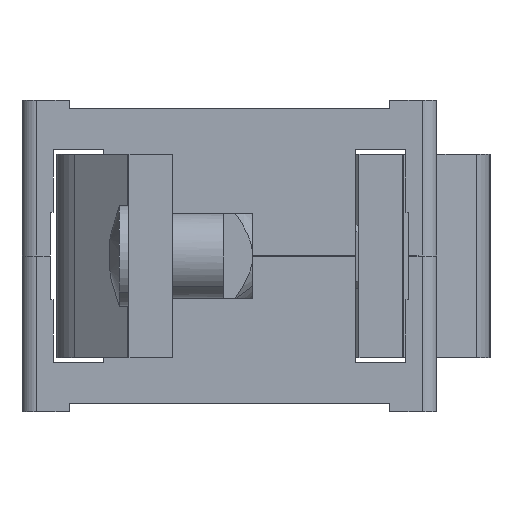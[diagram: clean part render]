
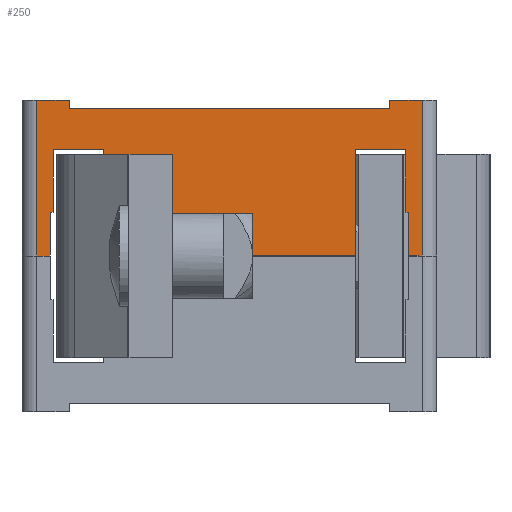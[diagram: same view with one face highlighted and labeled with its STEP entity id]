
A CAD part, left-side view. The second image highlights one B-rep face of the part: STEP entity #250.
In plain terms, the highlighted planar face has unit normal (-1, 0, 0) as drawn and (1, 0, 0) by its records, which use the part's own axes.
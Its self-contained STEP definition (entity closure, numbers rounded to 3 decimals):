
#41 = EDGE_CURVE ( 'NONE', #9026, #9369, #676, .T. ) ;
#42 = VERTEX_POINT ( 'NONE', #672 ) ;
#56 = EDGE_CURVE ( 'NONE', #9228, #57, #706, .T. ) ;
#57 = VERTEX_POINT ( 'NONE', #702 ) ;
#74 = VERTEX_POINT ( 'NONE', #677 ) ;
#76 = EDGE_CURVE ( 'NONE', #74, #9057, #738, .T. ) ;
#101 = EDGE_CURVE ( 'NONE', #42, #9225, #757, .T. ) ;
#217 = EDGE_CURVE ( 'NONE', #218, #219, #956, .T. ) ;
#218 = VERTEX_POINT ( 'NONE', #952 ) ;
#219 = VERTEX_POINT ( 'NONE', #951 ) ;
#248 = VERTEX_POINT ( 'NONE', #968 ) ;
#250 = ADVANCED_FACE ( 'NONE', ( #963 ), #962, .F. ) ;
#251 = EDGE_LOOP ( 'NONE', ( #252, #253, #254, #255, #257, #258, #259, #322, #324, #325, #326, #327, #328, #329, #332, #309, #311, #312, #314, #315 ) ) ;
#252 = ORIENTED_EDGE ( 'NONE', *, *, #9254, .F. ) ;
#253 = ORIENTED_EDGE ( 'NONE', *, *, #9059, .T. ) ;
#254 = ORIENTED_EDGE ( 'NONE', *, *, #76, .F. ) ;
#255 = ORIENTED_EDGE ( 'NONE', *, *, #256, .T. ) ;
#256 = EDGE_CURVE ( 'NONE', #74, #57, #960, .T. ) ;
#257 = ORIENTED_EDGE ( 'NONE', *, *, #56, .F. ) ;
#258 = ORIENTED_EDGE ( 'NONE', *, *, #9227, .F. ) ;
#259 = ORIENTED_EDGE ( 'NONE', *, *, #101, .F. ) ;
#309 = ORIENTED_EDGE ( 'NONE', *, *, #310, .T. ) ;
#310 = EDGE_CURVE ( 'NONE', #248, #219, #1065, .T. ) ;
#311 = ORIENTED_EDGE ( 'NONE', *, *, #217, .F. ) ;
#312 = ORIENTED_EDGE ( 'NONE', *, *, #313, .T. ) ;
#313 = EDGE_CURVE ( 'NONE', #218, #9235, #1061, .T. ) ;
#314 = ORIENTED_EDGE ( 'NONE', *, *, #9241, .F. ) ;
#315 = ORIENTED_EDGE ( 'NONE', *, *, #9170, .F. ) ;
#322 = ORIENTED_EDGE ( 'NONE', *, *, #323, .T. ) ;
#323 = EDGE_CURVE ( 'NONE', #42, #9369, #1111, .T. ) ;
#324 = ORIENTED_EDGE ( 'NONE', *, *, #41, .F. ) ;
#325 = ORIENTED_EDGE ( 'NONE', *, *, #9025, .F. ) ;
#326 = ORIENTED_EDGE ( 'NONE', *, *, #9263, .F. ) ;
#327 = ORIENTED_EDGE ( 'NONE', *, *, #9367, .F. ) ;
#328 = ORIENTED_EDGE ( 'NONE', *, *, #9316, .F. ) ;
#329 = ORIENTED_EDGE ( 'NONE', *, *, #330, .T. ) ;
#330 = EDGE_CURVE ( 'NONE', #9314, #331, #1107, .T. ) ;
#331 = VERTEX_POINT ( 'NONE', #1103 ) ;
#332 = ORIENTED_EDGE ( 'NONE', *, *, #333, .T. ) ;
#333 = EDGE_CURVE ( 'NONE', #331, #248, #1102, .T. ) ;
#672 = CARTESIAN_POINT ( 'NONE',  ( 27., -8.65, 3.4 ) ) ;
#673 = DIRECTION ( 'NONE',  ( 0., 0., -1. ) ) ;
#674 = VECTOR ( 'NONE', #673, 1000. ) ;
#675 = CARTESIAN_POINT ( 'NONE',  ( 27., -12.1, 10.7 ) ) ;
#676 = LINE ( 'NONE', #675, #674 ) ;
#677 = CARTESIAN_POINT ( 'NONE',  ( 27., 12.1, 3.4 ) ) ;
#702 = CARTESIAN_POINT ( 'NONE',  ( 27., 8.65, 3.4 ) ) ;
#703 = DIRECTION ( 'NONE',  ( 0., 0., -1. ) ) ;
#704 = VECTOR ( 'NONE', #703, 1000. ) ;
#705 = CARTESIAN_POINT ( 'NONE',  ( 27., 8.65, 10.7 ) ) ;
#706 = LINE ( 'NONE', #705, #704 ) ;
#735 = DIRECTION ( 'NONE',  ( 0., 0., 1. ) ) ;
#736 = VECTOR ( 'NONE', #735, 1000. ) ;
#737 = CARTESIAN_POINT ( 'NONE',  ( 27., 12.1, 10.7 ) ) ;
#738 = LINE ( 'NONE', #737, #736 ) ;
#754 = DIRECTION ( 'NONE',  ( 0., 0., 1. ) ) ;
#755 = VECTOR ( 'NONE', #754, 1000. ) ;
#756 = CARTESIAN_POINT ( 'NONE',  ( 27., -8.65, 10.7 ) ) ;
#757 = LINE ( 'NONE', #756, #755 ) ;
#951 = CARTESIAN_POINT ( 'NONE',  ( 27., 11., 0.6 ) ) ;
#952 = CARTESIAN_POINT ( 'NONE',  ( 27., 11., 0. ) ) ;
#953 = DIRECTION ( 'NONE',  ( 0., 0., 1. ) ) ;
#954 = VECTOR ( 'NONE', #953, 1000. ) ;
#955 = CARTESIAN_POINT ( 'NONE',  ( 27., 11., 10.7 ) ) ;
#956 = LINE ( 'NONE', #955, #954 ) ;
#960 = LINE ( 'NONE', #1020, #1019 ) ;
#961 = CARTESIAN_POINT ( 'NONE',  ( 27., 14.25, 10.7 ) ) ;
#962 = PLANE ( 'NONE',  #1023 ) ;
#963 = FACE_OUTER_BOUND ( 'NONE', #251, .T. ) ;
#968 = CARTESIAN_POINT ( 'NONE',  ( 27., -11., 0.6 ) ) ;
#1018 = DIRECTION ( 'NONE',  ( 0., -1., 0. ) ) ;
#1019 = VECTOR ( 'NONE', #1018, 1000. ) ;
#1020 = CARTESIAN_POINT ( 'NONE',  ( 27., 8.65, 3.4 ) ) ;
#1021 = DIRECTION ( 'NONE',  ( 0., -1., 0. ) ) ;
#1022 = DIRECTION ( 'NONE',  ( -1., 0., 0. ) ) ;
#1023 = AXIS2_PLACEMENT_3D ( 'NONE', #961, #1022, #1021 ) ;
#1058 = DIRECTION ( 'NONE',  ( 0., 1., 0. ) ) ;
#1059 = VECTOR ( 'NONE', #1058, 1000. ) ;
#1060 = CARTESIAN_POINT ( 'NONE',  ( 27., -14.25, 0. ) ) ;
#1061 = LINE ( 'NONE', #1060, #1059 ) ;
#1062 = DIRECTION ( 'NONE',  ( 0., 1., 0. ) ) ;
#1063 = VECTOR ( 'NONE', #1062, 1000. ) ;
#1064 = CARTESIAN_POINT ( 'NONE',  ( 27., -11., 0.6 ) ) ;
#1065 = LINE ( 'NONE', #1064, #1063 ) ;
#1099 = DIRECTION ( 'NONE',  ( 0., 0., 1. ) ) ;
#1100 = VECTOR ( 'NONE', #1099, 1000. ) ;
#1101 = CARTESIAN_POINT ( 'NONE',  ( 27., -11., 0.6 ) ) ;
#1102 = LINE ( 'NONE', #1101, #1100 ) ;
#1103 = CARTESIAN_POINT ( 'NONE',  ( 27., -11., 0. ) ) ;
#1104 = DIRECTION ( 'NONE',  ( 0., 1., 0. ) ) ;
#1105 = VECTOR ( 'NONE', #1104, 1000. ) ;
#1106 = CARTESIAN_POINT ( 'NONE',  ( 27., -14.25, 0. ) ) ;
#1107 = LINE ( 'NONE', #1106, #1105 ) ;
#1108 = DIRECTION ( 'NONE',  ( 0., -1., 0. ) ) ;
#1109 = VECTOR ( 'NONE', #1108, 1000. ) ;
#1110 = CARTESIAN_POINT ( 'NONE',  ( 27., 8.65, 3.4 ) ) ;
#1111 = LINE ( 'NONE', #1110, #1109 ) ;
#5670 = CARTESIAN_POINT ( 'NONE',  ( 27., -12.1, 7.7 ) ) ;
#5671 = DIRECTION ( 'NONE',  ( 0., 1., 0. ) ) ;
#5672 = VECTOR ( 'NONE', #5671, 1000. ) ;
#5673 = CARTESIAN_POINT ( 'NONE',  ( 27., -12.3, 7.7 ) ) ;
#5674 = LINE ( 'NONE', #5673, #5672 ) ;
#5675 = CARTESIAN_POINT ( 'NONE',  ( 27., -12.3, 7.7 ) ) ;
#5743 = CARTESIAN_POINT ( 'NONE',  ( 27., 12.3, 7.7 ) ) ;
#5744 = DIRECTION ( 'NONE',  ( 0., -1., 0. ) ) ;
#5745 = VECTOR ( 'NONE', #5744, 1000. ) ;
#5746 = CARTESIAN_POINT ( 'NONE',  ( 27., 12.3, 7.7 ) ) ;
#5747 = LINE ( 'NONE', #5746, #5745 ) ;
#5748 = CARTESIAN_POINT ( 'NONE',  ( 27., 12.1, 7.7 ) ) ;
#5887 = CARTESIAN_POINT ( 'NONE',  ( 27., 13.25, 10.7 ) ) ;
#5888 = DIRECTION ( 'NONE',  ( 0., 1., 0. ) ) ;
#5889 = VECTOR ( 'NONE', #5888, 1000. ) ;
#5890 = CARTESIAN_POINT ( 'NONE',  ( 27., -14.25, 10.7 ) ) ;
#5891 = LINE ( 'NONE', #5890, #5889 ) ;
#5892 = CARTESIAN_POINT ( 'NONE',  ( 27., 12.3, 10.7 ) ) ;
#6015 = DIRECTION ( 'NONE',  ( 0., 0., -1. ) ) ;
#6016 = VECTOR ( 'NONE', #6015, 1000. ) ;
#6017 = CARTESIAN_POINT ( 'NONE',  ( 27., 13.25, 10.7 ) ) ;
#6018 = LINE ( 'NONE', #6017, #6016 ) ;
#6024 = CARTESIAN_POINT ( 'NONE',  ( 27., 13.25, 0. ) ) ;
#6040 = CARTESIAN_POINT ( 'NONE',  ( 27., 8.65, 10.7 ) ) ;
#6041 = DIRECTION ( 'NONE',  ( 0., 1., 0. ) ) ;
#6042 = VECTOR ( 'NONE', #6041, 1000. ) ;
#6043 = CARTESIAN_POINT ( 'NONE',  ( 27., 14.25, 10.7 ) ) ;
#6044 = LINE ( 'NONE', #6043, #6042 ) ;
#6045 = CARTESIAN_POINT ( 'NONE',  ( 27., -8.65, 10.7 ) ) ;
#6052 = DIRECTION ( 'NONE',  ( 0., 0., 1. ) ) ;
#6053 = VECTOR ( 'NONE', #6052, 1000. ) ;
#6054 = CARTESIAN_POINT ( 'NONE',  ( 27., 12.3, 10.7 ) ) ;
#6055 = LINE ( 'NONE', #6054, #6053 ) ;
#6093 = DIRECTION ( 'NONE',  ( 0., 0., -1. ) ) ;
#6094 = VECTOR ( 'NONE', #6093, 1000. ) ;
#6095 = CARTESIAN_POINT ( 'NONE',  ( 27., -12.3, 10.7 ) ) ;
#6096 = LINE ( 'NONE', #6095, #6094 ) ;
#6097 = CARTESIAN_POINT ( 'NONE',  ( 27., -12.3, 10.7 ) ) ;
#6191 = CARTESIAN_POINT ( 'NONE',  ( 27., -13.25, 10.7 ) ) ;
#6192 = DIRECTION ( 'NONE',  ( 0., 0., 1. ) ) ;
#6193 = VECTOR ( 'NONE', #6192, 1000. ) ;
#6194 = CARTESIAN_POINT ( 'NONE',  ( 27., -13.25, 10.7 ) ) ;
#6195 = LINE ( 'NONE', #6194, #6193 ) ;
#6196 = CARTESIAN_POINT ( 'NONE',  ( 27., -13.25, 0. ) ) ;
#6232 = CARTESIAN_POINT ( 'NONE',  ( 27., -12.1, 3.4 ) ) ;
#6233 = DIRECTION ( 'NONE',  ( 0., 1., 0. ) ) ;
#6234 = VECTOR ( 'NONE', #6233, 1000. ) ;
#6235 = CARTESIAN_POINT ( 'NONE',  ( 27., 14.25, 10.7 ) ) ;
#6236 = LINE ( 'NONE', #6235, #6234 ) ;
#9023 = VERTEX_POINT ( 'NONE', #5675 ) ;
#9025 = EDGE_CURVE ( 'NONE', #9023, #9026, #5674, .T. ) ;
#9026 = VERTEX_POINT ( 'NONE', #5670 ) ;
#9057 = VERTEX_POINT ( 'NONE', #5748 ) ;
#9059 = EDGE_CURVE ( 'NONE', #9060, #9057, #5747, .T. ) ;
#9060 = VERTEX_POINT ( 'NONE', #5743 ) ;
#9168 = VERTEX_POINT ( 'NONE', #5892 ) ;
#9170 = EDGE_CURVE ( 'NONE', #9168, #9171, #5891, .T. ) ;
#9171 = VERTEX_POINT ( 'NONE', #5887 ) ;
#9225 = VERTEX_POINT ( 'NONE', #6045 ) ;
#9227 = EDGE_CURVE ( 'NONE', #9225, #9228, #6044, .T. ) ;
#9228 = VERTEX_POINT ( 'NONE', #6040 ) ;
#9235 = VERTEX_POINT ( 'NONE', #6024 ) ;
#9241 = EDGE_CURVE ( 'NONE', #9171, #9235, #6018, .T. ) ;
#9254 = EDGE_CURVE ( 'NONE', #9060, #9168, #6055, .T. ) ;
#9261 = VERTEX_POINT ( 'NONE', #6097 ) ;
#9263 = EDGE_CURVE ( 'NONE', #9261, #9023, #6096, .T. ) ;
#9314 = VERTEX_POINT ( 'NONE', #6196 ) ;
#9316 = EDGE_CURVE ( 'NONE', #9314, #9317, #6195, .T. ) ;
#9317 = VERTEX_POINT ( 'NONE', #6191 ) ;
#9367 = EDGE_CURVE ( 'NONE', #9317, #9261, #6236, .T. ) ;
#9369 = VERTEX_POINT ( 'NONE', #6232 ) ;
